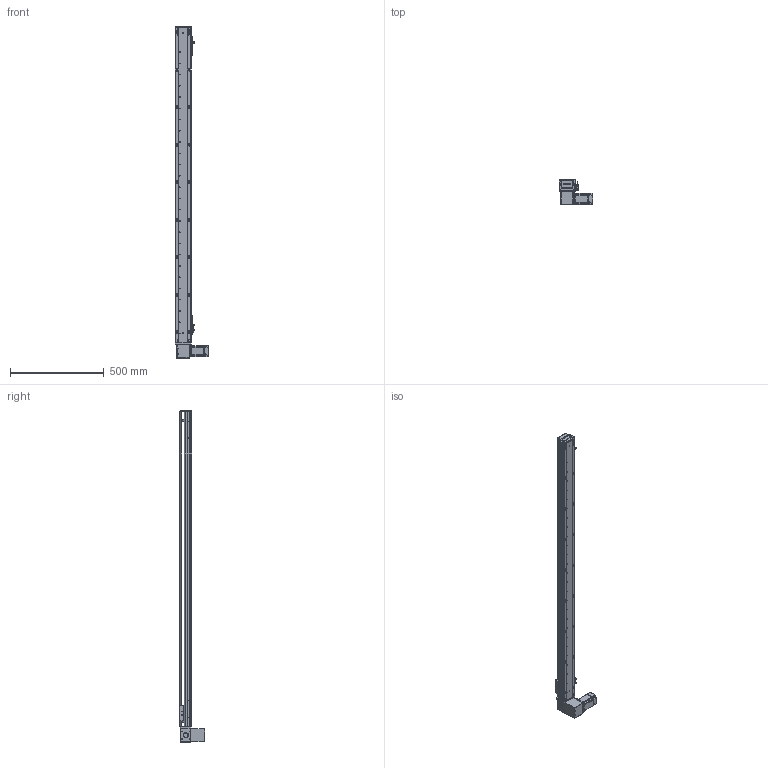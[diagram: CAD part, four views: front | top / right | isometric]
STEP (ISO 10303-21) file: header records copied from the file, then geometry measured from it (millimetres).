
FILE_DESCRIPTION (( 'STEP AP203' ), '1' );
FILE_NAME ('RY80-T-300-DR.SLDASM_1500.step', '2021-03-01T01:50:52', ( '盈信电脑' ), ( '东莞市道滘镇水果街19号' ), 'SwSTEP 2.0', 'SolidWorks 2012', '' );
FILE_SCHEMA (( 'CONFIG_CONTROL_DESIGN' ));
Products named in the file (18): RY80-T-M4蹟翐3; RY80-T-300-DR.SLDASM_1500; RY80-T-上下折同步轮盖板; RY80-T萇儂假蚾啣; RY80-T肮祭謫狟殏俋欶; 1; RY80-T翋肮祭謫裔啣; RY80-T肮祭湍揤輸1; RY80-T肮祭湍揤輸2; 滅袉蝶18-10; 覜茼ん672; 672嫖萇羲壽假蚾釱; RY80俋离覜茼え; RY80-T-翋肮祭謫釱; RY80-T肮祭謫臏賑輸; RY80-T綴裔啣; RY80-T-300-DR倰第奻裔啣_1500; RY80-T-300-DR倰第菁釱_1500
Assembly tree (21 placements, depth 2):
  RY80-T-300-DR.SLDASM_1500
    RY80-T-300-DR倰第菁釱_1500
    RY80-T肮祭謫臏賑輸
    RY80-T-300-DR倰第奻裔啣_1500
    RY80-T綴裔啣
    672嫖萇羲壽假蚾釱  x2
    覜茼ん672  x3
    RY80俋离覜茼え
    RY80-T-翋肮祭謫釱
    RY80-T肮祭湍揤輸1
    RY80-T肮祭湍揤輸2
    滅袉蝶18-10  x2
    RY80-T翋肮祭謫裔啣
    RY80-T-上下折同步轮盖板
    RY80-T肮祭謫狟殏俋欶
    RY80-T萇儂假蚾啣
    1
    RY80-T-M4蹟翐3
Bounding box: 180 x 134.5 x 1770 mm (x, y, z)
Volume: 2812940.1 mm3; surface area: 1194041.3 mm2
Topology: 21 solids, 21 shells, 2509 faces, 6963 edges, 4524 vertices
Faces by surface type: plane 1325, cylinder 986, cone 142, bspline 56
Entity records: 80842 total; most frequent: CARTESIAN_POINT 20092, ORIENTED_EDGE 12570, DIRECTION 11718, EDGE_CURVE 6285, VERTEX_POINT 4128, AXIS2_PLACEMENT_3D 3958, VECTOR 3802, LINE 3802
